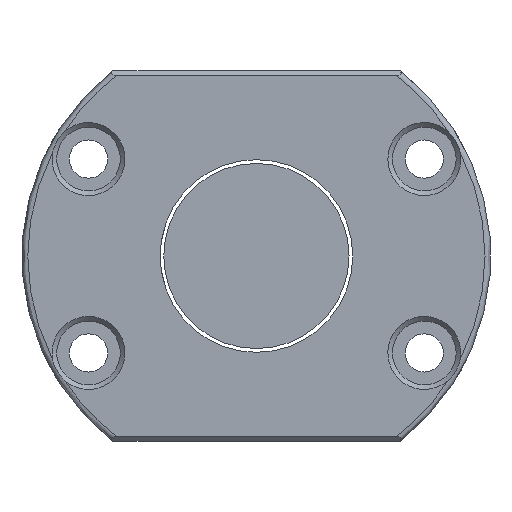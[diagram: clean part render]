
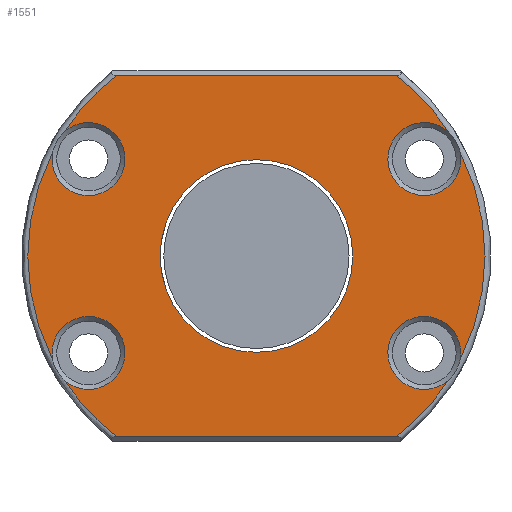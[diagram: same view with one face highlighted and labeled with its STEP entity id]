
A CAD part, left-side view. The second image highlights one B-rep face of the part: STEP entity #1551.
In plain terms, the highlighted planar face has unit normal (-1, 0, 0).
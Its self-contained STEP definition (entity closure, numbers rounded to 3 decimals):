
#3 = AXIS2_PLACEMENT_3D ( 'NONE', #2017, #2314, #2087 ) ;
#40 = CARTESIAN_POINT ( 'NONE',  ( -50., -24.224, 31.2 ) ) ;
#105 = VERTEX_POINT ( 'NONE', #848 ) ;
#149 = DIRECTION ( 'NONE',  ( -1., 0., 0. ) ) ;
#152 = CARTESIAN_POINT ( 'NONE',  ( -50., -24.224, -31.2 ) ) ;
#178 = LINE ( 'NONE', #1160, #1394 ) ;
#183 = CIRCLE ( 'NONE', #2270, 39.5 ) ;
#193 = EDGE_CURVE ( 'NONE', #1853, #105, #2163, .T. ) ;
#198 = CARTESIAN_POINT ( 'NONE',  ( -50., 29.012, 16.75 ) ) ;
#231 = DIRECTION ( 'NONE',  ( 1., 0., 0. ) ) ;
#332 = EDGE_CURVE ( 'NONE', #2666, #2744, #801, .T. ) ;
#347 = DIRECTION ( 'NONE',  ( 1., 0., 0. ) ) ;
#405 = FACE_BOUND ( 'NONE', #3043, .T. ) ;
#408 = DIRECTION ( 'NONE',  ( 0., 0., 1. ) ) ;
#422 = EDGE_CURVE ( 'NONE', #2318, #1289, #1866, .T. ) ;
#461 = CIRCLE ( 'NONE', #2198, 6.3 ) ;
#496 = DIRECTION ( 'NONE',  ( 0., 0., 1. ) ) ;
#514 = AXIS2_PLACEMENT_3D ( 'NONE', #2683, #231, #1480 ) ;
#527 = CARTESIAN_POINT ( 'NONE',  ( -50., 35.203, -17.917 ) ) ;
#536 = ORIENTED_EDGE ( 'NONE', *, *, #2446, .T. ) ;
#579 = DIRECTION ( 'NONE',  ( 0., 0., 1. ) ) ;
#587 = AXIS2_PLACEMENT_3D ( 'NONE', #198, #690, #408 ) ;
#601 = ORIENTED_EDGE ( 'NONE', *, *, #2539, .T. ) ;
#624 = DIRECTION ( 'NONE',  ( 0., 0., 1. ) ) ;
#690 = DIRECTION ( 'NONE',  ( 1., 0., 0. ) ) ;
#716 = DIRECTION ( 'NONE',  ( -1., 0., 0. ) ) ;
#801 = LINE ( 'NONE', #2945, #2370 ) ;
#819 = DIRECTION ( 'NONE',  ( 0., 0., 1. ) ) ;
#838 = ORIENTED_EDGE ( 'NONE', *, *, #2215, .T. ) ;
#848 = CARTESIAN_POINT ( 'NONE',  ( -50., 24.224, -31.2 ) ) ;
#866 = VERTEX_POINT ( 'NONE', #1795 ) ;
#874 = CARTESIAN_POINT ( 'NONE',  ( -50., 0., 0. ) ) ;
#881 = AXIS2_PLACEMENT_3D ( 'NONE', #3124, #149, #3098 ) ;
#900 = CIRCLE ( 'NONE', #587, 6.3 ) ;
#932 = DIRECTION ( 'NONE',  ( 0., 0., 1. ) ) ;
#950 = CARTESIAN_POINT ( 'NONE',  ( -50., 24.224, 31.2 ) ) ;
#1032 = CIRCLE ( 'NONE', #514, 16.65 ) ;
#1053 = VERTEX_POINT ( 'NONE', #152 ) ;
#1072 = ORIENTED_EDGE ( 'NONE', *, *, #2188, .T. ) ;
#1082 = DIRECTION ( 'NONE',  ( 1., 0., 0. ) ) ;
#1099 = EDGE_CURVE ( 'NONE', #2744, #866, #1962, .T. ) ;
#1118 = CARTESIAN_POINT ( 'NONE',  ( -50., 29.012, -16.75 ) ) ;
#1142 = AXIS2_PLACEMENT_3D ( 'NONE', #2985, #347, #579 ) ;
#1160 = CARTESIAN_POINT ( 'NONE',  ( -50., -24.824, -31.2 ) ) ;
#1164 = VERTEX_POINT ( 'NONE', #1906 ) ;
#1173 = DIRECTION ( 'NONE',  ( -1., 0., 0. ) ) ;
#1191 = EDGE_CURVE ( 'NONE', #866, #2318, #900, .T. ) ;
#1289 = VERTEX_POINT ( 'NONE', #527 ) ;
#1326 = ORIENTED_EDGE ( 'NONE', *, *, #1327, .T. ) ;
#1327 = EDGE_CURVE ( 'NONE', #1624, #2666, #183, .T. ) ;
#1382 = CARTESIAN_POINT ( 'NONE',  ( -50., -35.203, -17.917 ) ) ;
#1394 = VECTOR ( 'NONE', #2877, 1000. ) ;
#1411 = AXIS2_PLACEMENT_3D ( 'NONE', #874, #2606, #932 ) ;
#1480 = DIRECTION ( 'NONE',  ( 0., 0., -1. ) ) ;
#1507 = DIRECTION ( 'NONE',  ( 0., 0., 1. ) ) ;
#1551 = ADVANCED_FACE ( 'NONE', ( #1859, #405 ), #2822, .T. ) ;
#1579 = ORIENTED_EDGE ( 'NONE', *, *, #2747, .T. ) ;
#1624 = VERTEX_POINT ( 'NONE', #2364 ) ;
#1646 = CARTESIAN_POINT ( 'NONE',  ( -50., 0., 0. ) ) ;
#1684 = AXIS2_PLACEMENT_3D ( 'NONE', #3070, #2099, #1902 ) ;
#1692 = CARTESIAN_POINT ( 'NONE',  ( -50., 0., 0. ) ) ;
#1728 = DIRECTION ( 'NONE',  ( -1., 0., 0. ) ) ;
#1795 = CARTESIAN_POINT ( 'NONE',  ( -50., 33.118, 21.528 ) ) ;
#1809 = CARTESIAN_POINT ( 'NONE',  ( -50., 35.203, 17.917 ) ) ;
#1831 = ORIENTED_EDGE ( 'NONE', *, *, #1191, .T. ) ;
#1853 = VERTEX_POINT ( 'NONE', #2612 ) ;
#1859 = FACE_OUTER_BOUND ( 'NONE', #2139, .T. ) ;
#1866 = CIRCLE ( 'NONE', #2825, 39.5 ) ;
#1880 = ORIENTED_EDGE ( 'NONE', *, *, #332, .T. ) ;
#1885 = ORIENTED_EDGE ( 'NONE', *, *, #1099, .T. ) ;
#1899 = CIRCLE ( 'NONE', #1997, 39.5 ) ;
#1902 = DIRECTION ( 'NONE',  ( 0., 0., 1. ) ) ;
#1906 = CARTESIAN_POINT ( 'NONE',  ( -50., -33.118, -21.528 ) ) ;
#1962 = CIRCLE ( 'NONE', #1411, 39.5 ) ;
#1997 = AXIS2_PLACEMENT_3D ( 'NONE', #1646, #1173, #2617 ) ;
#2013 = DIRECTION ( 'NONE',  ( 0., 1., 0. ) ) ;
#2017 = CARTESIAN_POINT ( 'NONE',  ( -50., -29.012, -16.75 ) ) ;
#2055 = CIRCLE ( 'NONE', #881, 39.5 ) ;
#2074 = AXIS2_PLACEMENT_3D ( 'NONE', #3052, #2805, #624 ) ;
#2087 = DIRECTION ( 'NONE',  ( 0., 0., 1. ) ) ;
#2099 = DIRECTION ( 'NONE',  ( -1., 0., 0. ) ) ;
#2139 = EDGE_LOOP ( 'NONE', ( #536, #3007, #1072, #601, #838, #1326, #1880, #1885, #1831, #2272, #3107, #2829 ) ) ;
#2151 = EDGE_CURVE ( 'NONE', #1289, #1853, #461, .T. ) ;
#2163 = CIRCLE ( 'NONE', #2074, 39.5 ) ;
#2188 = EDGE_CURVE ( 'NONE', #1164, #2976, #2453, .T. ) ;
#2198 = AXIS2_PLACEMENT_3D ( 'NONE', #1118, #1082, #819 ) ;
#2215 = EDGE_CURVE ( 'NONE', #2532, #1624, #2302, .T. ) ;
#2270 = AXIS2_PLACEMENT_3D ( 'NONE', #1692, #716, #1507 ) ;
#2272 = ORIENTED_EDGE ( 'NONE', *, *, #422, .T. ) ;
#2302 = CIRCLE ( 'NONE', #1142, 6.3 ) ;
#2314 = DIRECTION ( 'NONE',  ( 1., 0., 0. ) ) ;
#2318 = VERTEX_POINT ( 'NONE', #1809 ) ;
#2364 = CARTESIAN_POINT ( 'NONE',  ( -50., -33.118, 21.528 ) ) ;
#2370 = VECTOR ( 'NONE', #2013, 1000. ) ;
#2414 = EDGE_CURVE ( 'NONE', #1053, #1164, #2055, .T. ) ;
#2435 = CARTESIAN_POINT ( 'NONE',  ( -50., 0., -16.65 ) ) ;
#2446 = EDGE_CURVE ( 'NONE', #105, #1053, #178, .T. ) ;
#2453 = CIRCLE ( 'NONE', #3, 6.3 ) ;
#2532 = VERTEX_POINT ( 'NONE', #2862 ) ;
#2539 = EDGE_CURVE ( 'NONE', #2976, #2532, #1899, .T. ) ;
#2606 = DIRECTION ( 'NONE',  ( -1., 0., 0. ) ) ;
#2612 = CARTESIAN_POINT ( 'NONE',  ( -50., 33.118, -21.528 ) ) ;
#2617 = DIRECTION ( 'NONE',  ( 0., 0., 1. ) ) ;
#2666 = VERTEX_POINT ( 'NONE', #40 ) ;
#2683 = CARTESIAN_POINT ( 'NONE',  ( -50., 0., 0. ) ) ;
#2744 = VERTEX_POINT ( 'NONE', #950 ) ;
#2747 = EDGE_CURVE ( 'NONE', #2930, #2930, #1032, .T. ) ;
#2805 = DIRECTION ( 'NONE',  ( -1., 0., 0. ) ) ;
#2822 = PLANE ( 'NONE',  #1684 ) ;
#2825 = AXIS2_PLACEMENT_3D ( 'NONE', #2936, #1728, #496 ) ;
#2829 = ORIENTED_EDGE ( 'NONE', *, *, #193, .T. ) ;
#2862 = CARTESIAN_POINT ( 'NONE',  ( -50., -35.203, 17.917 ) ) ;
#2877 = DIRECTION ( 'NONE',  ( 0., -1., 0. ) ) ;
#2930 = VERTEX_POINT ( 'NONE', #2435 ) ;
#2936 = CARTESIAN_POINT ( 'NONE',  ( -50., 0., 0. ) ) ;
#2945 = CARTESIAN_POINT ( 'NONE',  ( -50., 24.824, 31.2 ) ) ;
#2976 = VERTEX_POINT ( 'NONE', #1382 ) ;
#2985 = CARTESIAN_POINT ( 'NONE',  ( -50., -29.012, 16.75 ) ) ;
#3007 = ORIENTED_EDGE ( 'NONE', *, *, #2414, .T. ) ;
#3043 = EDGE_LOOP ( 'NONE', ( #1579 ) ) ;
#3052 = CARTESIAN_POINT ( 'NONE',  ( -50., 0., 0. ) ) ;
#3070 = CARTESIAN_POINT ( 'NONE',  ( -50., 40.5, 0. ) ) ;
#3098 = DIRECTION ( 'NONE',  ( 0., 0., 1. ) ) ;
#3107 = ORIENTED_EDGE ( 'NONE', *, *, #2151, .T. ) ;
#3124 = CARTESIAN_POINT ( 'NONE',  ( -50., 0., 0. ) ) ;
